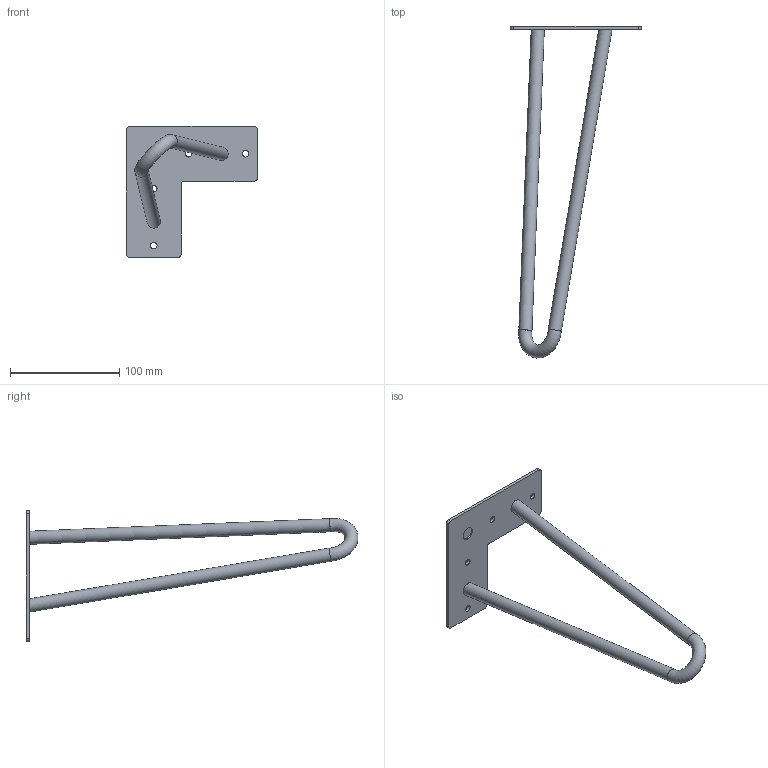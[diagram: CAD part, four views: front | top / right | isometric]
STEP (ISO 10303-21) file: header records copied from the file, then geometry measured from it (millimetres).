
FILE_DESCRIPTION(/* description */ (''),/* implementation_level */ '2;1');
FILE_NAME(/* name */ 'D:\$WorkingFolder\Designs\Meblowka\Nóżki meblowe\NM-ARTO\NM-ARTO-..-.R...-20M\NM-ARTO-12-2R304-20M.stp',/* time_stamp */ '2020-11-09T11:59:23+01:00',/* author */ ('ElizaL'),/* organization */ (''),/* preprocessor_version */ 'ST-DEVELOPER v18.1',/* originating_system */ 'Autodesk Inventor 2020',/* authorisation */ '');
FILE_SCHEMA (('AUTOMOTIVE_DESIGN { 1 0 10303 214 3 1 1 }'));
Length unit declared in the file: millimetre
Products named in the file (1): NM-ARTO-12-2R304-20M
Bounding box: 120 x 303.91 x 120 mm (x, y, z)
Volume: 98131.2 mm3; surface area: 44298.1 mm2
Topology: 2 solids, 2 shells, 33 faces, 88 edges, 62 vertices
Faces by surface type: cylinder 19, plane 13, torus 1
Full cylindrical faces by diameter (mm): 6 x4, 12 x7
Entity records: 1167 total; most frequent: CARTESIAN_POINT 232, DIRECTION 201, ORIENTED_EDGE 176, EDGE_CURVE 88, AXIS2_PLACEMENT_3D 83, VERTEX_POINT 62, EDGE_LOOP 44, CIRCLE 41
